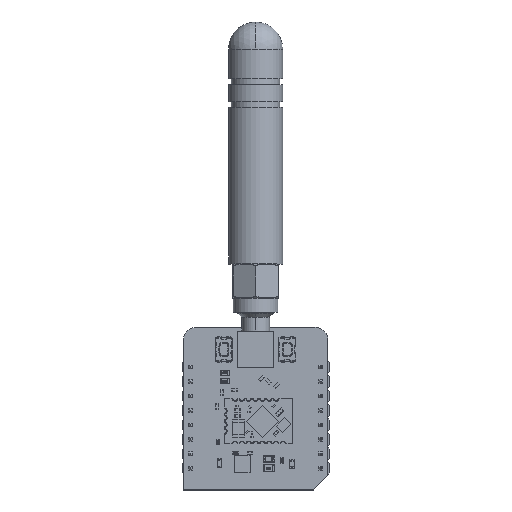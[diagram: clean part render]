
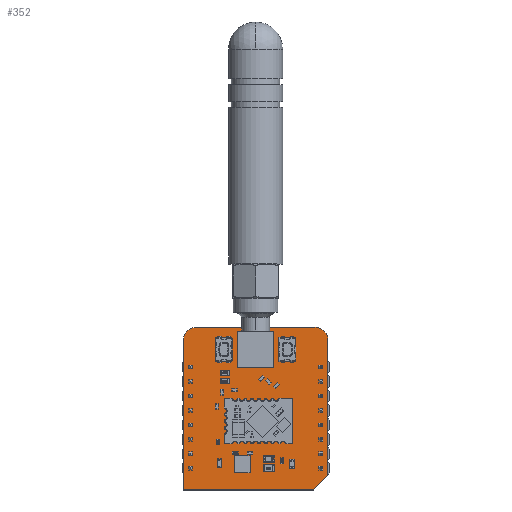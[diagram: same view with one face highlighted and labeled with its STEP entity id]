
A CAD part, top view. The second image highlights one B-rep face of the part: STEP entity #352.
In plain terms, the highlighted planar face has unit normal (0, 0, 1).
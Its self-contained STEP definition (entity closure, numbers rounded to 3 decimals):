
#123 = VERTEX_POINT('',#124);
#124 = CARTESIAN_POINT('',(-1.27,-3.81,0.));
#130 = EDGE_CURVE('',#123,#131,#133,.T.);
#131 = VERTEX_POINT('',#132);
#132 = CARTESIAN_POINT('',(-1.27,22.479,0.));
#133 = LINE('',#134,#135);
#134 = CARTESIAN_POINT('',(-1.27,-3.81,0.));
#135 = VECTOR('',#136,1.);
#136 = DIRECTION('',(0.,1.,0.));
#161 = EDGE_CURVE('',#131,#162,#164,.T.);
#162 = VERTEX_POINT('',#163);
#163 = CARTESIAN_POINT('',(1.016,24.765,0.));
#164 = CIRCLE('',#165,2.288);
#165 = AXIS2_PLACEMENT_3D('',#166,#167,#168);
#166 = CARTESIAN_POINT('',(1.018,22.477,0.));
#167 = DIRECTION('',(0.,0.,-1.));
#168 = DIRECTION('',(-1.,0.001,0.));
#194 = EDGE_CURVE('',#162,#195,#197,.T.);
#195 = VERTEX_POINT('',#196);
#196 = CARTESIAN_POINT('',(21.844,24.765,0.));
#197 = LINE('',#198,#199);
#198 = CARTESIAN_POINT('',(1.016,24.765,0.));
#199 = VECTOR('',#200,1.);
#200 = DIRECTION('',(1.,0.,0.));
#225 = EDGE_CURVE('',#195,#226,#228,.T.);
#226 = VERTEX_POINT('',#227);
#227 = CARTESIAN_POINT('',(24.13,22.479,0.));
#228 = CIRCLE('',#229,2.288);
#229 = AXIS2_PLACEMENT_3D('',#230,#231,#232);
#230 = CARTESIAN_POINT('',(21.842,22.477,0.));
#231 = DIRECTION('',(0.,0.,-1.));
#232 = DIRECTION('',(0.001,1.,0.));
#258 = EDGE_CURVE('',#226,#259,#261,.T.);
#259 = VERTEX_POINT('',#260);
#260 = CARTESIAN_POINT('',(24.13,-1.27,0.));
#261 = LINE('',#262,#263);
#262 = CARTESIAN_POINT('',(24.13,22.479,0.));
#263 = VECTOR('',#264,1.);
#264 = DIRECTION('',(0.,-1.,0.));
#289 = EDGE_CURVE('',#259,#290,#292,.T.);
#290 = VERTEX_POINT('',#291);
#291 = CARTESIAN_POINT('',(21.59,-3.81,0.));
#292 = LINE('',#293,#294);
#293 = CARTESIAN_POINT('',(24.13,-1.27,0.));
#294 = VECTOR('',#295,1.);
#295 = DIRECTION('',(-0.707,-0.707,0.));
#320 = EDGE_CURVE('',#290,#123,#321,.T.);
#321 = LINE('',#322,#323);
#322 = CARTESIAN_POINT('',(21.59,-3.81,0.));
#323 = VECTOR('',#324,1.);
#324 = DIRECTION('',(-1.,0.,0.));
#352 = ADVANCED_FACE('',(#353),#362,.T.);
#353 = FACE_BOUND('',#354,.F.);
#354 = EDGE_LOOP('',(#355,#356,#357,#358,#359,#360,#361));
#355 = ORIENTED_EDGE('',*,*,#130,.T.);
#356 = ORIENTED_EDGE('',*,*,#161,.T.);
#357 = ORIENTED_EDGE('',*,*,#194,.T.);
#358 = ORIENTED_EDGE('',*,*,#225,.T.);
#359 = ORIENTED_EDGE('',*,*,#258,.T.);
#360 = ORIENTED_EDGE('',*,*,#289,.T.);
#361 = ORIENTED_EDGE('',*,*,#320,.T.);
#362 = PLANE('',#363);
#363 = AXIS2_PLACEMENT_3D('',#364,#365,#366);
#364 = CARTESIAN_POINT('',(-1.27,-3.81,0.));
#365 = DIRECTION('',(0.,0.,1.));
#366 = DIRECTION('',(1.,0.,0.));
